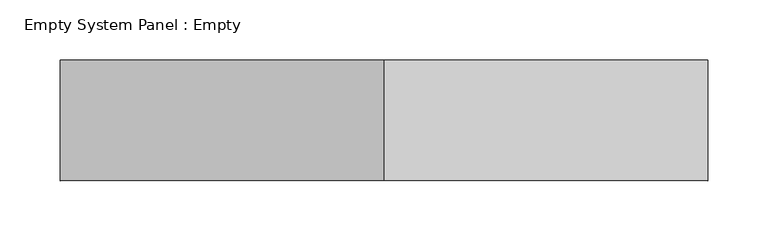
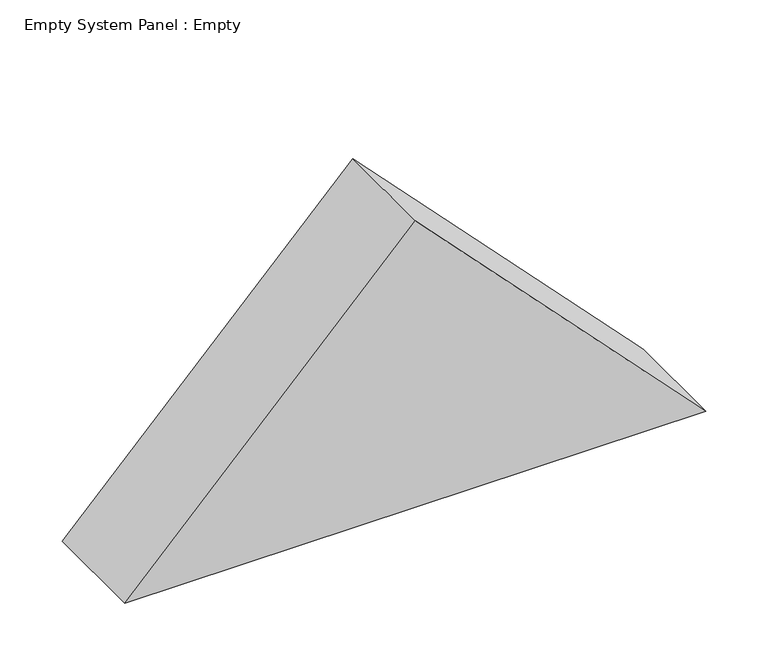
"""IFC4 building model written with IfcOpenShell, lengths in millimetres: plate geometry, Empty System Panel : Empty."""

from ifc_helpers import new_model, si_unit, frame, origin, place, context, project, spatial, polyline, outline, extrude, source, transform, mapped, element, save


def empty_system_panel_empty_531248cf(model_context):
    return source(origin(), model_context, "Body", "SweptSolid", [
        extrude(outline(polyline([(0.0, -268.2647554), (0.0, 268.2647554), (280.0766272, 0.0), (0.0, -268.2647554)])), frame((0.0, -50.0, 0.0), z_axis=(0.0, 1.0, 0.0), x_axis=(0.0, 0.0, 1.0)), (0.0, 0.0, 1.0), 100.0),
    ])


if __name__ == "__main__":
    model = new_model("IFC4")
    model_context = context("Model", 3, world=origin())
    ifc_project = project(units=[si_unit("LENGTHUNIT", "METRE", prefix="MILLI")], contexts=[model_context])
    site = spatial("IfcSite", under=ifc_project)
    building = spatial("IfcBuilding", under=site)
    placement = place(None, origin())
    empty_system_panel_empty_shape = empty_system_panel_empty_531248cf(model_context)
    element("IfcPlate", 1, ObjectType="Empty System Panel : Empty", at=placement, inside=building, context=model_context, shape_type="MappedRepresentation", body=[
        mapped(empty_system_panel_empty_shape, transform((0.0, 0.0, 0.0), x_axis=(1.0, 0.0, 0.0), y_axis=(0.0, 1.0, 0.0), z_axis=(0.0, 0.0, 1.0))),
    ])
    save(model, "model.ifc")
